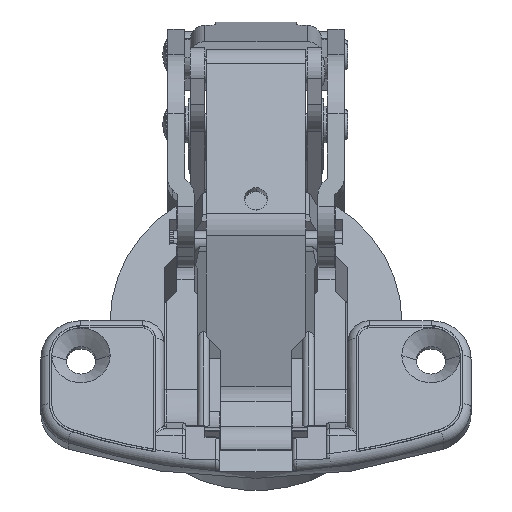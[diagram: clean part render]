
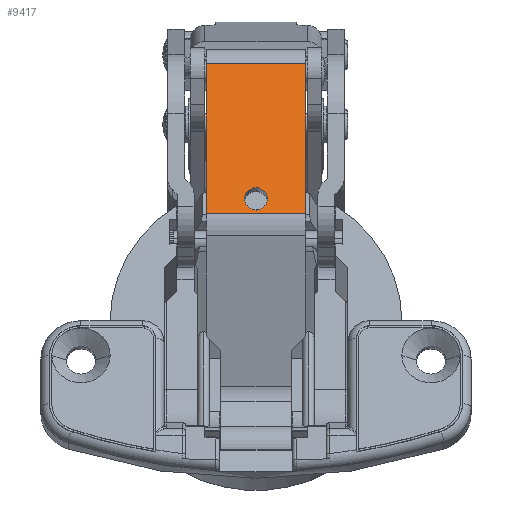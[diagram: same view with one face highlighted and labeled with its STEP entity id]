
A CAD part, top view. The second image highlights one B-rep face of the part: STEP entity #9417.
In plain terms, the highlighted planar face has unit normal (0, 0.34, 0.94) as drawn and (0.135, 0.991, 0) by its records, which use the part's own axes.
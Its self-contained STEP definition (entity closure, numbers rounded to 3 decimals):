
#388 = CARTESIAN_POINT ( 'NONE',  ( 31.655, 5.929, 13.7 ) ) ;
#449 = CARTESIAN_POINT ( 'NONE',  ( 35.372, 5.421, 6.85 ) ) ;
#504 = CARTESIAN_POINT ( 'NONE',  ( 32.202, 5.854, 6.85 ) ) ;
#750 = CARTESIAN_POINT ( 'NONE',  ( 53.306, 2.972, 0. ) ) ;
#756 = CARTESIAN_POINT ( 'NONE',  ( 31.655, 5.929, 0. ) ) ;
#893 = CARTESIAN_POINT ( 'NONE',  ( 53.306, 2.972, 13.7 ) ) ;
#1348 = VERTEX_POINT ( 'NONE', #756 ) ;
#1355 = VERTEX_POINT ( 'NONE', #388 ) ;
#1397 = VERTEX_POINT ( 'NONE', #750 ) ;
#1399 = VERTEX_POINT ( 'NONE', #449 ) ;
#1404 = VERTEX_POINT ( 'NONE', #893 ) ;
#1417 = VERTEX_POINT ( 'NONE', #504 ) ;
#2062 = FACE_BOUND ( 'NONE', #29786, .T. ) ;
#2065 = FACE_OUTER_BOUND ( 'NONE', #29789, .T. ) ;
#5386 = AXIS2_PLACEMENT_3D ( 'NONE', #32412, #32413, #32414 ) ;
#5429 = AXIS2_PLACEMENT_3D ( 'NONE', #28831, #28832, #28833 ) ;
#7953 = AXIS2_PLACEMENT_3D ( 'NONE', #11474, #11468, #11467 ) ;
#9417 = ADVANCED_FACE ( 'NONE', ( #2062, #2065 ), #11469, .F. ) ;
#10651 = LINE ( 'NONE', #32282, #10657 ) ;
#10657 = VECTOR ( 'NONE', #32283, 1000. ) ;
#10755 = CIRCLE ( 'NONE', #5386, 1.6 ) ;
#11467 = DIRECTION ( 'NONE',  ( 0.991, -0.135, 0. ) ) ;
#11468 = DIRECTION ( 'NONE',  ( -0.135, -0.991, 0. ) ) ;
#11469 = PLANE ( 'NONE',  #7953 ) ;
#11474 = CARTESIAN_POINT ( 'NONE',  ( 30.071, 6.145, 13.7 ) ) ;
#13723 = EDGE_CURVE ( 'NONE', #1404, #1397, #10651, .T. ) ;
#13772 = EDGE_CURVE ( 'NONE', #1399, #1417, #10755, .T. ) ;
#18584 = LINE ( 'NONE', #28792, #18587 ) ;
#18587 = VECTOR ( 'NONE', #28793, 1000. ) ;
#18610 = CIRCLE ( 'NONE', #5429, 1.6 ) ;
#18611 = LINE ( 'NONE', #28826, #18613 ) ;
#18612 = LINE ( 'NONE', #28834, #18615 ) ;
#18613 = VECTOR ( 'NONE', #28827, 1000. ) ;
#18615 = VECTOR ( 'NONE', #28835, 1000. ) ;
#21803 = EDGE_CURVE ( 'NONE', #1404, #1355, #18584, .T. ) ;
#21819 = EDGE_CURVE ( 'NONE', #1417, #1399, #18610, .T. ) ;
#21820 = EDGE_CURVE ( 'NONE', #1397, #1348, #18611, .T. ) ;
#21821 = EDGE_CURVE ( 'NONE', #1348, #1355, #18612, .T. ) ;
#28792 = CARTESIAN_POINT ( 'NONE',  ( 30.071, 6.145, 13.7 ) ) ;
#28793 = DIRECTION ( 'NONE',  ( -0.991, 0.135, 0. ) ) ;
#28826 = CARTESIAN_POINT ( 'NONE',  ( 30.071, 6.145, 0. ) ) ;
#28827 = DIRECTION ( 'NONE',  ( -0.991, 0.135, 0. ) ) ;
#28831 = CARTESIAN_POINT ( 'NONE',  ( 33.787, 5.638, 6.85 ) ) ;
#28832 = DIRECTION ( 'NONE',  ( 0.135, 0.991, 0. ) ) ;
#28833 = DIRECTION ( 'NONE',  ( -0.991, 0.135, 0. ) ) ;
#28834 = CARTESIAN_POINT ( 'NONE',  ( 31.655, 5.929, 13.7 ) ) ;
#28835 = DIRECTION ( 'NONE',  ( 0., 0., 1. ) ) ;
#29786 = EDGE_LOOP ( 'NONE', ( #30016, #30017 ) ) ;
#29789 = EDGE_LOOP ( 'NONE', ( #30018, #30019, #30020, #30021 ) ) ;
#30016 = ORIENTED_EDGE ( 'NONE', *, *, #21819, .F. ) ;
#30017 = ORIENTED_EDGE ( 'NONE', *, *, #13772, .F. ) ;
#30018 = ORIENTED_EDGE ( 'NONE', *, *, #21820, .T. ) ;
#30019 = ORIENTED_EDGE ( 'NONE', *, *, #21821, .T. ) ;
#30020 = ORIENTED_EDGE ( 'NONE', *, *, #21803, .F. ) ;
#30021 = ORIENTED_EDGE ( 'NONE', *, *, #13723, .T. ) ;
#32282 = CARTESIAN_POINT ( 'NONE',  ( 53.306, 2.972, 13.7 ) ) ;
#32283 = DIRECTION ( 'NONE',  ( 0., 0., -1. ) ) ;
#32412 = CARTESIAN_POINT ( 'NONE',  ( 33.787, 5.638, 6.85 ) ) ;
#32413 = DIRECTION ( 'NONE',  ( 0.135, 0.991, 0. ) ) ;
#32414 = DIRECTION ( 'NONE',  ( -0.991, 0.135, 0. ) ) ;
